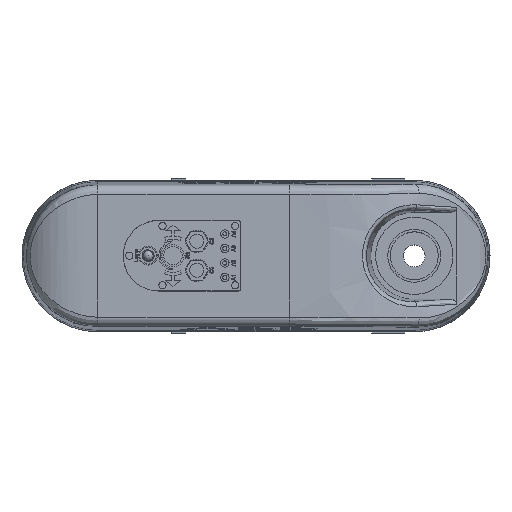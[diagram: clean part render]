
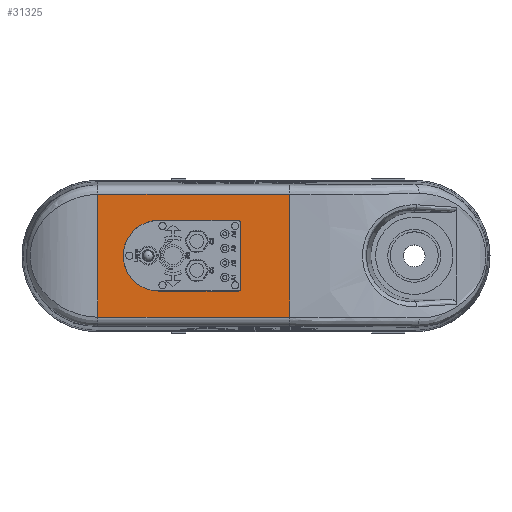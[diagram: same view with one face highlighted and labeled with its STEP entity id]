
A CAD part, top view. The second image highlights one B-rep face of the part: STEP entity #31325.
In plain terms, the highlighted planar face has unit normal (0, 0, 1).
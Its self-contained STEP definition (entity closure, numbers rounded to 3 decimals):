
#670 = CARTESIAN_POINT ( 'NONE',  ( 245., 59.156, 457.7 ) ) ;
#673 = VECTOR ( 'NONE', #25872, 1000. ) ;
#1180 = CARTESIAN_POINT ( 'NONE',  ( 430., -705.455, 457.7 ) ) ;
#1185 = VECTOR ( 'NONE', #22024, 1000. ) ;
#1390 = DIRECTION ( 'NONE',  ( 1., 0., 0. ) ) ;
#2030 =( BOUNDED_CURVE ( )  B_SPLINE_CURVE ( 3, ( #33023, #29548, #23628, #14118 ),
 .UNSPECIFIED., .F., .F. ) 
 B_SPLINE_CURVE_WITH_KNOTS ( ( 4, 4 ),
 ( 2.357, 3.927 ),
 .UNSPECIFIED. ) 
 CURVE ( )  GEOMETRIC_REPRESENTATION_ITEM ( )  RATIONAL_B_SPLINE_CURVE ( ( 1., 0.805, 0.805, 1. ) ) 
 REPRESENTATION_ITEM ( '' )  );
#2486 = EDGE_CURVE ( 'NONE', #18916, #11717, #24949, .T. ) ;
#2553 = ORIENTED_EDGE ( 'NONE', *, *, #16392, .T. ) ;
#3004 = CARTESIAN_POINT ( 'NONE',  ( 382.5, -34., 457.7 ) ) ;
#4189 = FACE_OUTER_BOUND ( 'NONE', #30043, .T. ) ;
#4578 = ORIENTED_EDGE ( 'NONE', *, *, #11760, .T. ) ;
#4695 = EDGE_CURVE ( 'NONE', #18916, #27862, #20360, .T. ) ;
#5040 = CARTESIAN_POINT ( 'NONE',  ( 380.501, 34., 457.7 ) ) ;
#5228 = CARTESIAN_POINT ( 'NONE',  ( 382.5, 32.001, 457.7 ) ) ;
#5811 = LINE ( 'NONE', #15289, #19423 ) ;
#6099 = VERTEX_POINT ( 'NONE', #670 ) ;
#6248 = VECTOR ( 'NONE', #35337, 1000. ) ;
#6766 = CARTESIAN_POINT ( 'NONE',  ( 303.5, 0., 457.7 ) ) ;
#8252 = LINE ( 'NONE', #1180, #673 ) ;
#9050 = CARTESIAN_POINT ( 'NONE',  ( 430., -59.156, 457.7 ) ) ;
#9173 = ORIENTED_EDGE ( 'NONE', *, *, #37149, .F. ) ;
#10019 = CARTESIAN_POINT ( 'NONE',  ( 245., -59.156, 457.7 ) ) ;
#11072 = DIRECTION ( 'NONE',  ( 0., 0., 1. ) ) ;
#11717 = VERTEX_POINT ( 'NONE', #28942 ) ;
#11760 = EDGE_CURVE ( 'NONE', #31539, #27964, #23229, .T. ) ;
#13512 = CARTESIAN_POINT ( 'NONE',  ( 430., -59.156, 457.7 ) ) ;
#13972 = CARTESIAN_POINT ( 'NONE',  ( 380.501, -34., 457.7 ) ) ;
#14017 = CARTESIAN_POINT ( 'NONE',  ( 382.5, 34., 457.7 ) ) ;
#14101 = PLANE ( 'NONE',  #29721 ) ;
#14118 = CARTESIAN_POINT ( 'NONE',  ( 382.5, 32.001, 457.7 ) ) ;
#14565 = CARTESIAN_POINT ( 'NONE',  ( 382.5, -32.001, 457.7 ) ) ;
#15208 = VERTEX_POINT ( 'NONE', #27724 ) ;
#15289 = CARTESIAN_POINT ( 'NONE',  ( 245., -705.242, 457.7 ) ) ;
#15739 = VERTEX_POINT ( 'NONE', #16078 ) ;
#16078 = CARTESIAN_POINT ( 'NONE',  ( 303.5, 34., 457.7 ) ) ;
#16099 = ORIENTED_EDGE ( 'NONE', *, *, #37355, .F. ) ;
#16392 = EDGE_CURVE ( 'NONE', #39430, #27862, #2030, .T. ) ;
#16433 = EDGE_CURVE ( 'NONE', #27964, #15208, #8252, .T. ) ;
#16456 = VERTEX_POINT ( 'NONE', #33236 ) ;
#16910 = CARTESIAN_POINT ( 'NONE',  ( 382.5, 34., 457.7 ) ) ;
#17406 = CARTESIAN_POINT ( 'NONE',  ( 381.672, -34., 457.7 ) ) ;
#17610 = EDGE_CURVE ( 'NONE', #39430, #15739, #32714, .T. ) ;
#17637 = LINE ( 'NONE', #35506, #28600 ) ;
#18175 = DIRECTION ( 'NONE',  ( 0., 1., 0. ) ) ;
#18916 = VERTEX_POINT ( 'NONE', #27466 ) ;
#19071 = EDGE_LOOP ( 'NONE', ( #24301, #2553, #22656, #32378, #16099, #9173 ) ) ;
#19423 = VECTOR ( 'NONE', #18175, 1000. ) ;
#20360 = LINE ( 'NONE', #16910, #39509 ) ;
#21816 = LINE ( 'NONE', #3004, #1185 ) ;
#22024 = DIRECTION ( 'NONE',  ( 1., 0., 0. ) ) ;
#22656 = ORIENTED_EDGE ( 'NONE', *, *, #4695, .F. ) ;
#22981 = ORIENTED_EDGE ( 'NONE', *, *, #25770, .T. ) ;
#23229 = LINE ( 'NONE', #13512, #31081 ) ;
#23421 = CARTESIAN_POINT ( 'NONE',  ( 245., 0., 457.7 ) ) ;
#23628 = CARTESIAN_POINT ( 'NONE',  ( 382.5, 33.172, 457.7 ) ) ;
#24301 = ORIENTED_EDGE ( 'NONE', *, *, #17610, .F. ) ;
#24949 =( BOUNDED_CURVE ( )  B_SPLINE_CURVE ( 3, ( #14565, #29411, #17406, #13972 ),
 .UNSPECIFIED., .F., .T. ) 
 B_SPLINE_CURVE_WITH_KNOTS ( ( 4, 4 ),
 ( 2.357, 3.927 ),
 .UNSPECIFIED. ) 
 CURVE ( )  GEOMETRIC_REPRESENTATION_ITEM ( )  RATIONAL_B_SPLINE_CURVE ( ( 1., 0.805, 0.805, 1. ) ) 
 REPRESENTATION_ITEM ( '' )  );
#25153 = ORIENTED_EDGE ( 'NONE', *, *, #16433, .T. ) ;
#25770 = EDGE_CURVE ( 'NONE', #15208, #6099, #17637, .T. ) ;
#25872 = DIRECTION ( 'NONE',  ( 0., 1., 0. ) ) ;
#27466 = CARTESIAN_POINT ( 'NONE',  ( 382.5, -32.001, 457.7 ) ) ;
#27724 = CARTESIAN_POINT ( 'NONE',  ( 430., 59.156, 457.7 ) ) ;
#27862 = VERTEX_POINT ( 'NONE', #5228 ) ;
#27964 = VERTEX_POINT ( 'NONE', #9050 ) ;
#28600 = VECTOR ( 'NONE', #35910, 1000. ) ;
#28903 = DIRECTION ( 'NONE',  ( 0., 1., 0. ) ) ;
#28942 = CARTESIAN_POINT ( 'NONE',  ( 380.501, -34., 457.7 ) ) ;
#29059 = ORIENTED_EDGE ( 'NONE', *, *, #32577, .F. ) ;
#29145 = FACE_BOUND ( 'NONE', #19071, .T. ) ;
#29411 = CARTESIAN_POINT ( 'NONE',  ( 382.5, -33.172, 457.7 ) ) ;
#29548 = CARTESIAN_POINT ( 'NONE',  ( 381.672, 34., 457.7 ) ) ;
#29721 = AXIS2_PLACEMENT_3D ( 'NONE', #23421, #11072, #32396 ) ;
#29754 = CIRCLE ( 'NONE', #39492, 34. ) ;
#30043 = EDGE_LOOP ( 'NONE', ( #25153, #22981, #29059, #4578 ) ) ;
#31081 = VECTOR ( 'NONE', #1390, 1000. ) ;
#31325 = ADVANCED_FACE ( 'NONE', ( #29145, #4189 ), #14101, .T. ) ;
#31519 = DIRECTION ( 'NONE',  ( 0., 0., 1. ) ) ;
#31539 = VERTEX_POINT ( 'NONE', #10019 ) ;
#32378 = ORIENTED_EDGE ( 'NONE', *, *, #2486, .T. ) ;
#32396 = DIRECTION ( 'NONE',  ( 1., 0., 0. ) ) ;
#32501 = DIRECTION ( 'NONE',  ( 0., 1., 0. ) ) ;
#32577 = EDGE_CURVE ( 'NONE', #31539, #6099, #5811, .T. ) ;
#32714 = LINE ( 'NONE', #14017, #6248 ) ;
#33023 = CARTESIAN_POINT ( 'NONE',  ( 380.501, 34., 457.7 ) ) ;
#33236 = CARTESIAN_POINT ( 'NONE',  ( 303.5, -34., 457.7 ) ) ;
#35337 = DIRECTION ( 'NONE',  ( -1., 0., 0. ) ) ;
#35506 = CARTESIAN_POINT ( 'NONE',  ( 245., 59.156, 457.7 ) ) ;
#35910 = DIRECTION ( 'NONE',  ( -1., 0., 0. ) ) ;
#37149 = EDGE_CURVE ( 'NONE', #15739, #16456, #29754, .T. ) ;
#37355 = EDGE_CURVE ( 'NONE', #16456, #11717, #21816, .T. ) ;
#39430 = VERTEX_POINT ( 'NONE', #5040 ) ;
#39492 = AXIS2_PLACEMENT_3D ( 'NONE', #6766, #31519, #32501 ) ;
#39509 = VECTOR ( 'NONE', #28903, 1000. ) ;
